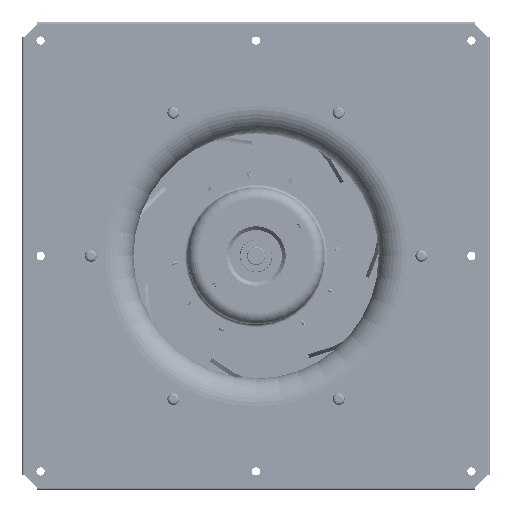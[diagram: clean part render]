
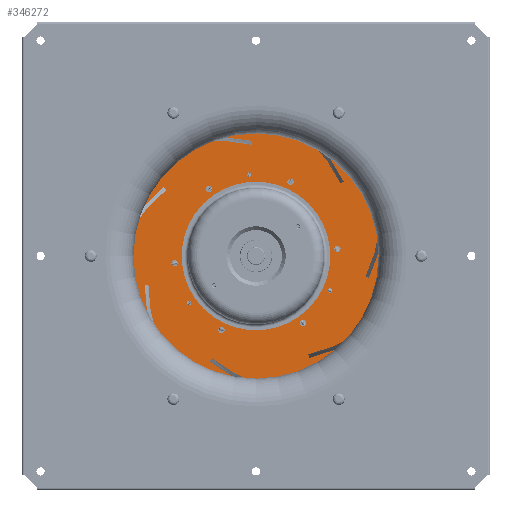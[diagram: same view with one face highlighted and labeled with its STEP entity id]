
A CAD part, left-side view. The second image highlights one B-rep face of the part: STEP entity #346272.
In plain terms, the highlighted planar face has unit normal (-1, 0, 0) as drawn and (0, 1, 0) by its records, which use the part's own axes.
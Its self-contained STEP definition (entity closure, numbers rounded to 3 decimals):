
#345699=CARTESIAN_POINT('',(0.,10.,0.));
#345700=DIRECTION('',(0.,1.,0.));
#345701=DIRECTION('',(0.,0.,-1.));
#345702=AXIS2_PLACEMENT_3D('',#345699,#345700,#345701);
#345704=CARTESIAN_POINT('',(0.,10.,0.));
#345705=DIRECTION('',(0.,-1.,0.));
#345706=DIRECTION('',(0.,0.,-1.));
#345707=AXIS2_PLACEMENT_3D('',#345704,#345705,#345706);
#345709=CARTESIAN_POINT('',(0.,10.,-110.));
#345710=DIRECTION('',(0.,1.,0.));
#345711=DIRECTION('',(1.,0.,0.));
#345712=AXIS2_PLACEMENT_3D('',#345709,#345710,#345711);
#345714=CARTESIAN_POINT('',(0.,10.,-110.));
#345715=DIRECTION('',(0.,1.,0.));
#345716=DIRECTION('',(-1.,0.,0.));
#345717=AXIS2_PLACEMENT_3D('',#345714,#345715,#345716);
#345719=CARTESIAN_POINT('',(-95.263,10.,-55.));
#345720=DIRECTION('',(0.,1.,0.));
#345721=DIRECTION('',(1.,0.,0.));
#345722=AXIS2_PLACEMENT_3D('',#345719,#345720,#345721);
#345724=CARTESIAN_POINT('',(-95.263,10.,-55.));
#345725=DIRECTION('',(0.,1.,0.));
#345726=DIRECTION('',(-1.,0.,0.));
#345727=AXIS2_PLACEMENT_3D('',#345724,#345725,#345726);
#345729=CARTESIAN_POINT('',(-55.,10.,-95.263));
#345730=DIRECTION('',(0.,1.,0.));
#345731=DIRECTION('',(1.,0.,0.));
#345732=AXIS2_PLACEMENT_3D('',#345729,#345730,#345731);
#345734=CARTESIAN_POINT('',(-55.,10.,-95.263));
#345735=DIRECTION('',(0.,1.,0.));
#345736=DIRECTION('',(-1.,0.,0.));
#345737=AXIS2_PLACEMENT_3D('',#345734,#345735,#345736);
#345739=CARTESIAN_POINT('',(95.263,10.,55.));
#345740=DIRECTION('',(0.,1.,0.));
#345741=DIRECTION('',(-0.5,0.,0.866));
#345742=AXIS2_PLACEMENT_3D('',#345739,#345740,#345741);
#345744=CARTESIAN_POINT('',(95.263,10.,55.));
#345745=DIRECTION('',(0.,1.,0.));
#345746=DIRECTION('',(0.5,0.,-0.866));
#345747=AXIS2_PLACEMENT_3D('',#345744,#345745,#345746);
#345749=CARTESIAN_POINT('',(95.263,10.,-55.));
#345750=DIRECTION('',(0.,1.,0.));
#345751=DIRECTION('',(-0.5,0.,0.866));
#345752=AXIS2_PLACEMENT_3D('',#345749,#345750,#345751);
#345754=CARTESIAN_POINT('',(95.263,10.,-55.));
#345755=DIRECTION('',(0.,1.,0.));
#345756=DIRECTION('',(0.5,0.,-0.866));
#345757=AXIS2_PLACEMENT_3D('',#345754,#345755,#345756);
#345759=CARTESIAN_POINT('',(110.,10.,0.));
#345760=DIRECTION('',(0.,1.,0.));
#345761=DIRECTION('',(-0.5,0.,0.866));
#345762=AXIS2_PLACEMENT_3D('',#345759,#345760,#345761);
#345764=CARTESIAN_POINT('',(110.,10.,0.));
#345765=DIRECTION('',(0.,1.,0.));
#345766=DIRECTION('',(0.5,0.,-0.866));
#345767=AXIS2_PLACEMENT_3D('',#345764,#345765,#345766);
#345769=CARTESIAN_POINT('',(-95.263,10.,55.));
#345770=DIRECTION('',(0.,1.,0.));
#345771=DIRECTION('',(-0.5,0.,-0.866));
#345772=AXIS2_PLACEMENT_3D('',#345769,#345770,#345771);
#345774=CARTESIAN_POINT('',(-95.263,10.,55.));
#345775=DIRECTION('',(0.,1.,0.));
#345776=DIRECTION('',(0.5,0.,0.866));
#345777=AXIS2_PLACEMENT_3D('',#345774,#345775,#345776);
#345779=CARTESIAN_POINT('',(0.,10.,110.));
#345780=DIRECTION('',(0.,1.,0.));
#345781=DIRECTION('',(-0.5,0.,-0.866));
#345782=AXIS2_PLACEMENT_3D('',#345779,#345780,#345781);
#345784=CARTESIAN_POINT('',(0.,10.,110.));
#345785=DIRECTION('',(0.,1.,0.));
#345786=DIRECTION('',(0.5,0.,0.866));
#345787=AXIS2_PLACEMENT_3D('',#345784,#345785,#345786);
#345789=CARTESIAN_POINT('',(-55.,10.,95.263));
#345790=DIRECTION('',(0.,1.,0.));
#345791=DIRECTION('',(-0.5,0.,-0.866));
#345792=AXIS2_PLACEMENT_3D('',#345789,#345790,#345791);
#345794=CARTESIAN_POINT('',(-55.,10.,95.263));
#345795=DIRECTION('',(0.,1.,0.));
#345796=DIRECTION('',(0.5,0.,0.866));
#345797=AXIS2_PLACEMENT_3D('',#345794,#345795,#345796);
#345799=CARTESIAN_POINT('',(0.,10.,0.));
#345800=DIRECTION('',(0.,-1.,0.));
#345801=DIRECTION('',(0.,0.,-1.));
#345802=AXIS2_PLACEMENT_3D('',#345799,#345800,#345801);
#345812=CARTESIAN_POINT('',(0.,10.,0.));
#345813=DIRECTION('',(0.,1.,0.));
#345814=DIRECTION('',(0.,0.,-1.));
#345815=AXIS2_PLACEMENT_3D('',#345812,#345813,#345814);
#345885=CARTESIAN_POINT('',(0.,10.,-100.05));
#345887=VERTEX_POINT('',#345885);
#345899=CARTESIAN_POINT('',(0.,10.,-246.5));
#345900=VERTEX_POINT('',#345899);
#345901=CARTESIAN_POINT('',(0.,10.,100.05));
#345903=VERTEX_POINT('',#345901);
#345915=CARTESIAN_POINT('',(0.,10.,246.5));
#345916=VERTEX_POINT('',#345915);
#345929=CARTESIAN_POINT('',(4.25,10.,-110.));
#345930=CARTESIAN_POINT('',(-4.25,10.,-110.));
#345931=VERTEX_POINT('',#345929);
#345932=VERTEX_POINT('',#345930);
#345933=CARTESIAN_POINT('',(-91.013,10.,-55.));
#345934=CARTESIAN_POINT('',(-99.513,10.,-55.));
#345935=VERTEX_POINT('',#345933);
#345936=VERTEX_POINT('',#345934);
#345937=CARTESIAN_POINT('',(-52.,10.,-95.263));
#345938=CARTESIAN_POINT('',(-58.,10.,-95.263));
#345939=VERTEX_POINT('',#345937);
#345940=VERTEX_POINT('',#345938);
#345953=CARTESIAN_POINT('',(93.138,10.,58.681));
#345954=CARTESIAN_POINT('',(97.388,10.,51.319));
#345955=VERTEX_POINT('',#345953);
#345956=VERTEX_POINT('',#345954);
#345957=CARTESIAN_POINT('',(93.138,10.,-51.319));
#345958=CARTESIAN_POINT('',(97.388,10.,-58.681));
#345959=VERTEX_POINT('',#345957);
#345960=VERTEX_POINT('',#345958);
#345961=CARTESIAN_POINT('',(108.5,10.,2.598));
#345962=CARTESIAN_POINT('',(111.5,10.,-2.598));
#345963=VERTEX_POINT('',#345961);
#345964=VERTEX_POINT('',#345962);
#345977=CARTESIAN_POINT('',(-97.388,10.,51.319));
#345978=CARTESIAN_POINT('',(-93.138,10.,58.681));
#345979=VERTEX_POINT('',#345977);
#345980=VERTEX_POINT('',#345978);
#345981=CARTESIAN_POINT('',(-2.125,10.,106.319));
#345982=CARTESIAN_POINT('',(2.125,10.,113.681));
#345983=VERTEX_POINT('',#345981);
#345984=VERTEX_POINT('',#345982);
#345985=CARTESIAN_POINT('',(-56.5,10.,92.665));
#345986=CARTESIAN_POINT('',(-53.5,10.,97.861));
#345987=VERTEX_POINT('',#345985);
#345988=VERTEX_POINT('',#345986);
#346204=CARTESIAN_POINT('',(0.,10.,0.));
#346205=DIRECTION('',(0.,-1.,0.));
#346206=DIRECTION('',(0.,0.,1.));
#346207=AXIS2_PLACEMENT_3D('',#346204,#346205,#346206);
#346208=PLANE('',#346207);
#346209=ORIENTED_EDGE('',*,*,#346183,.F.);
#346210=ORIENTED_EDGE('',*,*,#346199,.T.);
#346211=EDGE_LOOP('',(#346209,#346210));
#346212=FACE_OUTER_BOUND('',#346211,.F.);
#346214=ORIENTED_EDGE('',*,*,#346213,.F.);
#346216=ORIENTED_EDGE('',*,*,#346215,.T.);
#346217=EDGE_LOOP('',(#346214,#346216));
#346218=FACE_BOUND('',#346217,.F.);
#346220=ORIENTED_EDGE('',*,*,#346219,.T.);
#346222=ORIENTED_EDGE('',*,*,#346221,.T.);
#346223=EDGE_LOOP('',(#346220,#346222));
#346224=FACE_BOUND('',#346223,.F.);
#346226=ORIENTED_EDGE('',*,*,#346225,.T.);
#346227=ORIENTED_EDGE('',*,*,#345998,.T.);
#346228=EDGE_LOOP('',(#346226,#346227));
#346229=FACE_BOUND('',#346228,.F.);
#346231=ORIENTED_EDGE('',*,*,#346230,.T.);
#346233=ORIENTED_EDGE('',*,*,#346232,.T.);
#346234=EDGE_LOOP('',(#346231,#346233));
#346235=FACE_BOUND('',#346234,.F.);
#346237=ORIENTED_EDGE('',*,*,#346236,.T.);
#346239=ORIENTED_EDGE('',*,*,#346238,.T.);
#346240=EDGE_LOOP('',(#346237,#346239));
#346241=FACE_BOUND('',#346240,.F.);
#346243=ORIENTED_EDGE('',*,*,#346242,.T.);
#346245=ORIENTED_EDGE('',*,*,#346244,.T.);
#346246=EDGE_LOOP('',(#346243,#346245));
#346247=FACE_BOUND('',#346246,.F.);
#346249=ORIENTED_EDGE('',*,*,#346248,.T.);
#346251=ORIENTED_EDGE('',*,*,#346250,.T.);
#346252=EDGE_LOOP('',(#346249,#346251));
#346253=FACE_BOUND('',#346252,.F.);
#346255=ORIENTED_EDGE('',*,*,#346254,.T.);
#346257=ORIENTED_EDGE('',*,*,#346256,.T.);
#346258=EDGE_LOOP('',(#346255,#346257));
#346259=FACE_BOUND('',#346258,.F.);
#346261=ORIENTED_EDGE('',*,*,#346260,.T.);
#346263=ORIENTED_EDGE('',*,*,#346262,.T.);
#346264=EDGE_LOOP('',(#346261,#346263));
#346265=FACE_BOUND('',#346264,.F.);
#346267=ORIENTED_EDGE('',*,*,#346266,.T.);
#346269=ORIENTED_EDGE('',*,*,#346268,.T.);
#346270=EDGE_LOOP('',(#346267,#346269));
#346271=FACE_BOUND('',#346270,.F.);
#346272=ADVANCED_FACE('',(#346212,#346218,#346224,#346229,#346235,#346241,
#346247,#346253,#346259,#346265,#346271),#346208,.F.);
#345703=CIRCLE('',#345702,246.5);
#345708=CIRCLE('',#345707,246.5);
#345713=CIRCLE('',#345712,4.25);
#345718=CIRCLE('',#345717,4.25);
#345723=CIRCLE('',#345722,4.25);
#345728=CIRCLE('',#345727,4.25);
#345733=CIRCLE('',#345732,3.);
#345738=CIRCLE('',#345737,3.);
#345743=CIRCLE('',#345742,4.25);
#345748=CIRCLE('',#345747,4.25);
#345753=CIRCLE('',#345752,4.25);
#345758=CIRCLE('',#345757,4.25);
#345763=CIRCLE('',#345762,3.);
#345768=CIRCLE('',#345767,3.);
#345773=CIRCLE('',#345772,4.25);
#345778=CIRCLE('',#345777,4.25);
#345783=CIRCLE('',#345782,4.25);
#345788=CIRCLE('',#345787,4.25);
#345793=CIRCLE('',#345792,3.);
#345798=CIRCLE('',#345797,3.);
#345803=CIRCLE('',#345802,100.05);
#345816=CIRCLE('',#345815,100.05);
#345998=EDGE_CURVE('',#345936,#345935,#345728,.T.);
#346183=EDGE_CURVE('',#345900,#345916,#345703,.T.);
#346199=EDGE_CURVE('',#345900,#345916,#345708,.T.);
#346213=EDGE_CURVE('',#345887,#345903,#345803,.T.);
#346215=EDGE_CURVE('',#345887,#345903,#345816,.T.);
#346219=EDGE_CURVE('',#345931,#345932,#345713,.T.);
#346221=EDGE_CURVE('',#345932,#345931,#345718,.T.);
#346225=EDGE_CURVE('',#345935,#345936,#345723,.T.);
#346230=EDGE_CURVE('',#345939,#345940,#345733,.T.);
#346232=EDGE_CURVE('',#345940,#345939,#345738,.T.);
#346236=EDGE_CURVE('',#345955,#345956,#345743,.T.);
#346238=EDGE_CURVE('',#345956,#345955,#345748,.T.);
#346242=EDGE_CURVE('',#345959,#345960,#345753,.T.);
#346244=EDGE_CURVE('',#345960,#345959,#345758,.T.);
#346248=EDGE_CURVE('',#345963,#345964,#345763,.T.);
#346250=EDGE_CURVE('',#345964,#345963,#345768,.T.);
#346254=EDGE_CURVE('',#345979,#345980,#345773,.T.);
#346256=EDGE_CURVE('',#345980,#345979,#345778,.T.);
#346260=EDGE_CURVE('',#345983,#345984,#345783,.T.);
#346262=EDGE_CURVE('',#345984,#345983,#345788,.T.);
#346266=EDGE_CURVE('',#345987,#345988,#345793,.T.);
#346268=EDGE_CURVE('',#345988,#345987,#345798,.T.);
